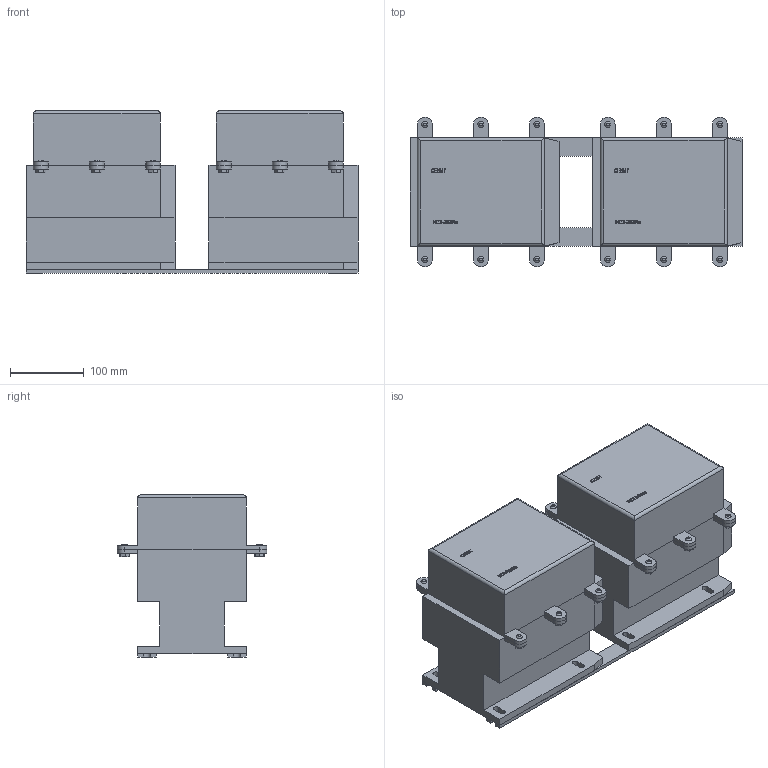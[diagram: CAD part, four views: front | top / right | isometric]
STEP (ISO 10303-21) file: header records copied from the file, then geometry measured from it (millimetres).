
FILE_DESCRIPTION(/* description */ (''),/* implementation_level */ '2;1');
FILE_NAME(/* name */ 'D:\CHINT2\NC2-N\NC2-265Ns 230В 50Гц (горизонтальная установка).stp',/* time_stamp */ '2017-11-12T21:08:21+03:00',/* author */ ('RSagdiev'),/* organization */ (''),/* preprocessor_version */ 'ST-DEVELOPER v16.5',/* originating_system */ 'Autodesk Inventor 2017',/* authorisation */ '');
FILE_SCHEMA (('AUTOMOTIVE_DESIGN { 1 0 10303 214 3 1 1 }'));
Length unit declared in the file: millimetre
Products named in the file (1): NC2-265Ns 230В 50Гц (\X2\0433043E044004380437
043E043D04420430043B044C043D0430044F\X0\ \X2\0443044104420430043D043E0432
043A0430\X0\)
Bounding box: 450 x 203 x 220.1 mm (x, y, z)
Volume: 10806763 mm3; surface area: 633264.1 mm2
Topology: 30 solids, 30 shells, 770 faces, 2052 edges, 1372 vertices
Faces by surface type: plane 500, bspline 218, cylinder 52
Entity records: 25798 total; most frequent: CARTESIAN_POINT 7833, ORIENTED_EDGE 4104, DIRECTION 2878, EDGE_CURVE 2052, LINE 1484, VECTOR 1484, VERTEX_POINT 1372, EDGE_LOOP 816
